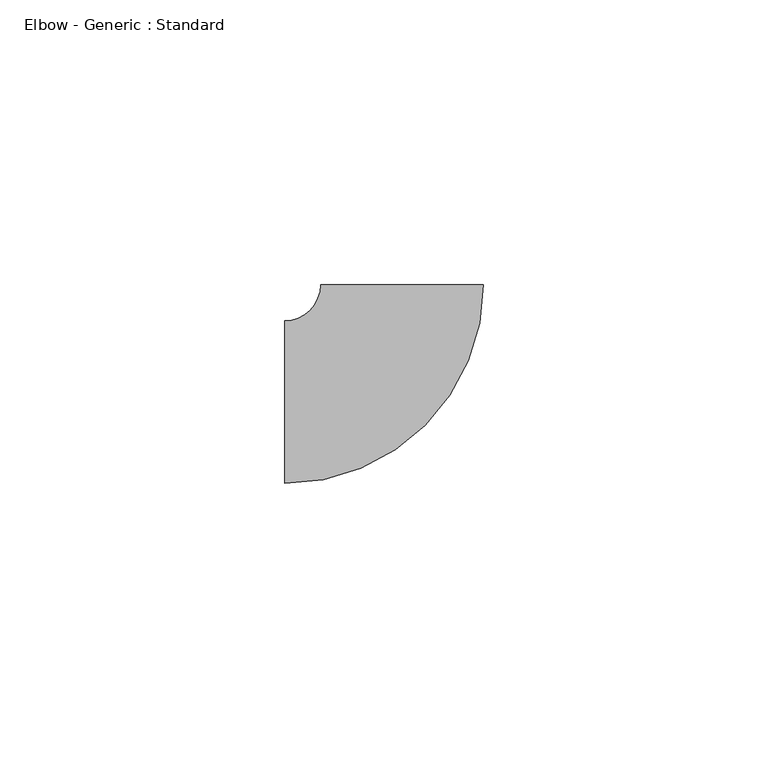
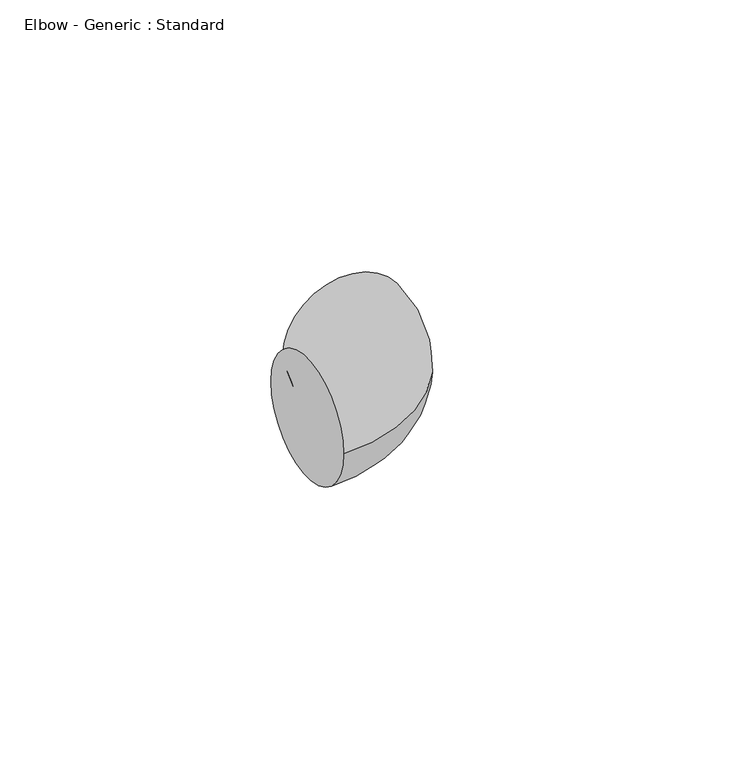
"""IFC4 building model written with IfcOpenShell, lengths in millimetres: pipe fitting geometry, Elbow - Generic : Standard."""

from ifc_helpers import new_model, si_unit, point, frame, origin, place, context, project, spatial, circle_curve, ellipse_curve, trimmed, source, transform, mapped, element, save
from ifc_brep_helpers import plane_surface, revolved_surface, advanced_brep


def elbow_generic_standard_760b037f(model_context):
    return source(origin(), model_context, "Body", "AdvancedBrep", [
        advanced_brep(
        [(-20.6433195, -14.2875, 0.0), (-20.6433195, 14.2875, 0.0), (14.2816791, 20.647347, 0.0), (-14.2933198, 20.6392904, 0.0)],
        [
            (0, 1, circle_curve(frame((-20.6433195, 0.0, 0.0), z_axis=(-1.0, 0.0, 0.0), x_axis=(0.0, 1.0, 0.0)), 14.2875)),
            (1, 0, circle_curve(frame((-20.6433195, 0.0, 0.0), z_axis=(-1.0, 0.0, 0.0), x_axis=(0.0, 1.0, 0.0)), 14.2875)),
            (2, 3, circle_curve(frame((-0.0058203, 20.6433187, 0.0), z_axis=(-0.0002819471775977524, 0.9999999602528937, 0.0), x_axis=(-0.9999999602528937, -0.0002819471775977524, 0.0)), 14.2875)),
            (3, 2, circle_curve(frame((-0.0058203, 20.6433187, 0.0), z_axis=(-0.0002819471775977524, 0.9999999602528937, 0.0), x_axis=(-0.9999999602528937, -0.0002819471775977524, 0.0)), 14.2875)),
            (3, 1, circle_curve(frame((-20.6433195, 20.6375, 0.0), z_axis=(0.0, 0.0, -1.0), x_axis=(0.0, -1.0, 0.0)), 6.35)),
            (0, 2, circle_curve(frame((-20.6433195, 20.6375, 0.0), z_axis=(0.0, 0.0, 1.0), x_axis=(0.0, -1.0, 0.0)), 34.925)),
        ],
        [
            plane_surface(frame((-20.6433195, 0.0, 0.0), z_axis=(-1.0, 0.0, 0.0), x_axis=(0.0, 0.0, 1.0))),
            plane_surface(frame((-0.0058203, 20.6433187, 0.0), z_axis=(-0.0002819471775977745, 0.9999999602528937, 0.0), x_axis=(0.0, 0.0, 1.0))),
            revolved_surface(trimmed(ellipse_curve(frame((-20.6433195, 0.0, 0.0), z_axis=(-1.0, 0.0, 0.0), x_axis=(0.0, 1.0, 0.0)), 14.2875, 14.2875), [point((-20.6433195, -14.2875, 0.0))], [point((-20.6433195, 14.2875, 0.0))], True, "CARTESIAN"), (-20.6433195, 20.6375, 0.0), (0.0, 0.0, 1.0)),
            revolved_surface(trimmed(ellipse_curve(frame((-20.6433195, 0.0, 0.0), z_axis=(-1.0, 0.0, 0.0), x_axis=(0.0, 1.0, 0.0)), 14.2875, 14.2875), [point((-20.6433195, 14.2875, 0.0))], [point((-20.6433195, -14.2875, 0.0))], True, "CARTESIAN"), (-20.6433195, 20.6375, 0.0), (0.0, 0.0, 1.0)),
        ],
        [
            (0, [[1, 2]]),
            (1, [[3, 4]]),
            (2, [[5, -1, 6, -4]]),
            (3, [[-6, -2, -5, -3]]),
        ],
    ),
    ])


if __name__ == "__main__":
    model = new_model("IFC4")
    model_context = context("Model", 3, world=origin())
    ifc_project = project(units=[si_unit("LENGTHUNIT", "METRE", prefix="MILLI")], contexts=[model_context])
    site = spatial("IfcSite", under=ifc_project)
    building = spatial("IfcBuilding", under=site)
    placement = place(None, origin())
    elbow_generic_standard_shape = elbow_generic_standard_760b037f(model_context)
    element("IfcPipeFitting", 1, ObjectType="Elbow - Generic : Standard", at=placement, inside=building, context=model_context, shape_type="MappedRepresentation", body=[
        mapped(elbow_generic_standard_shape, transform((0.0, 0.0, 0.0), x_axis=(1.0, 0.0, 0.0), y_axis=(0.0, 1.0, 0.0), z_axis=(0.0, 0.0, 1.0))),
    ])
    save(model, "model.ifc")
